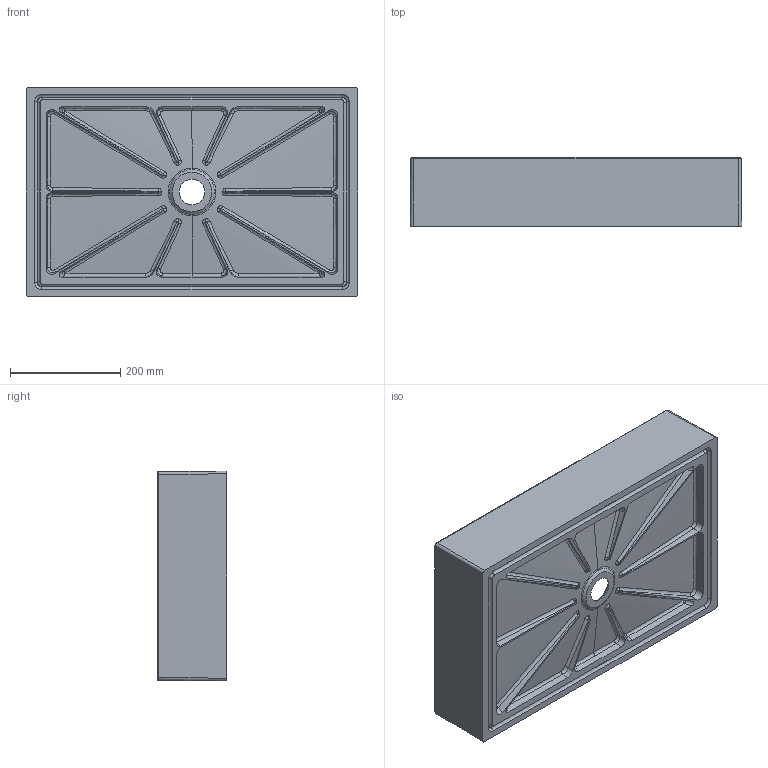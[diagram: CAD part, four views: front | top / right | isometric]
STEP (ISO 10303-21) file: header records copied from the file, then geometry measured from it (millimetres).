
FILE_DESCRIPTION (( 'STEP AP203' ), '1' );
FILE_NAME ('EQA6038.STEP', '2017-03-06T17:00:02', ( '' ), ( '' ), 'SwSTEP 2.0', 'SolidWorks 2017', '' );
FILE_SCHEMA (( 'CONFIG_CONTROL_DESIGN' ));
Length unit declared in the file: millimetre
Products named in the file (1): EQA6038
Bounding box: 600 x 125 x 380 mm (x, y, z)
Volume: 7163946.1 mm3; surface area: 880597 mm2
Topology: 1 solids, 1 shells, 247 faces, 614 edges, 368 vertices
Faces by surface type: bspline 106, cylinder 64, plane 57, torus 10, sphere 8, cone 2
Entity records: 19938 total; most frequent: CARTESIAN_POINT 14993, ORIENTED_EDGE 1194, DIRECTION 790, EDGE_CURVE 597, VERTEX_POINT 359, AXIS2_PLACEMENT_3D 307, EDGE_LOOP 256, FACE_OUTER_BOUND 249
